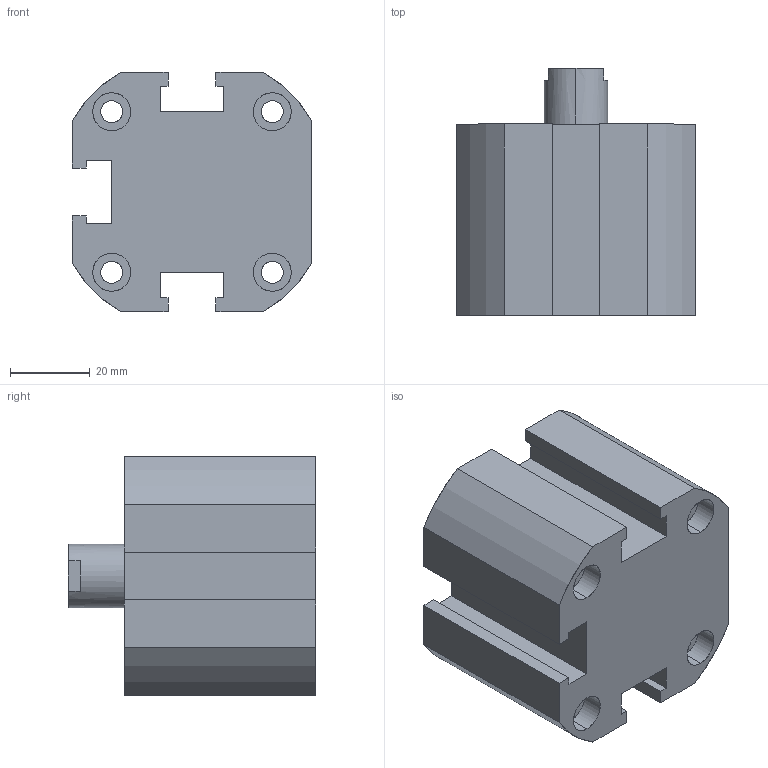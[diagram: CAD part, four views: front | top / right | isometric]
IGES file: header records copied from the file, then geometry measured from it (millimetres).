
Start section: SolidWorks IGES file using analytic representation for surfaces
Global section: file name: C:\Users\Toshiba\Desktop\XG#0-40D-10.IGS; native system: SolidWorks 2014; preprocessor: SolidWorks 2014; author: Toshiba; date: 160524.093745; units: millimetre
Bounding box: 60 x 62 x 60 mm (x, y, z)
Surface area: 25381.1 mm2 (no closed solid volume)
Topology: 0 solids, 0 shells, 107 faces, 1894 edges, 1890 vertices
Faces by surface type: revolution 58, bspline 49
